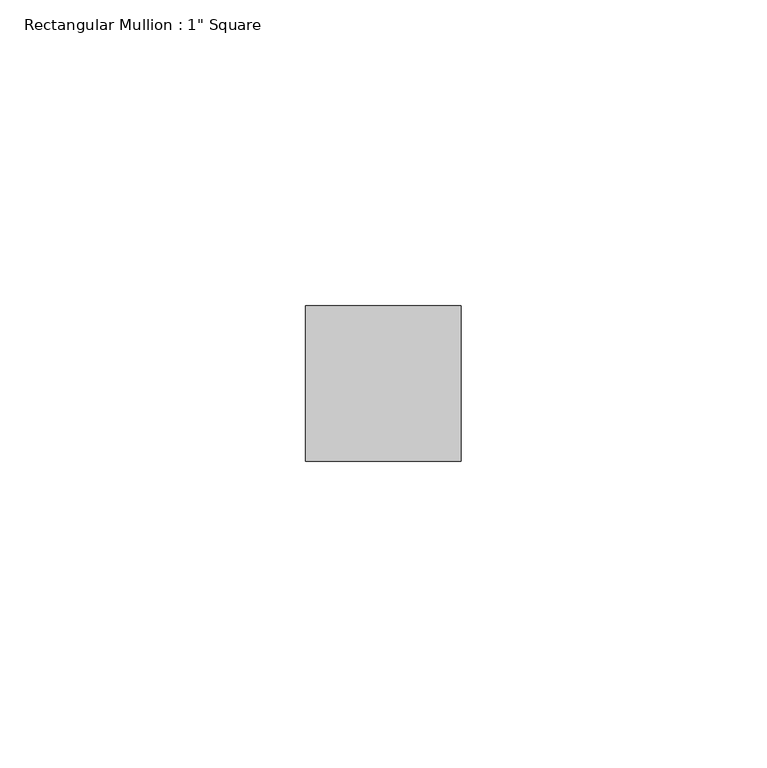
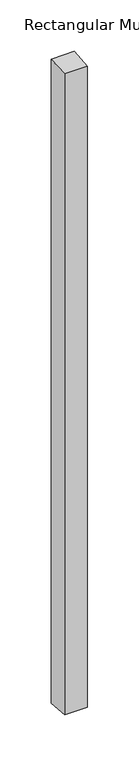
"""IFC4 building model written with IfcOpenShell, lengths in millimetres: member geometry."""

from ifc_helpers import new_model, si_unit, origin, place, context, project, spatial, faceted_brep, source, transform, mapped, element, save


def member_c7f1f8f4(model_context):
    return source(origin(), model_context, "Body", "Brep", [
        faceted_brep([(-25.4, 12.7, 0.833586), (0.0, 12.7, 1.0561795), (0.0, 12.7, -763.0561795), (-25.4, 12.7, -762.833586), (-25.4, -12.7, -1.278773), (-25.4, -12.7, -760.721227), (0.0, -12.7, -1.0561795), (0.0, -12.7, -760.9438205)], [[[0, 1, 2, 3]], [[4, 0, 3, 5]], [[6, 4, 5, 7]], [[1, 6, 7, 2]], [[1, 0, 4, 6]], [[2, 7, 5, 3]]]),
    ])


if __name__ == "__main__":
    model = new_model("IFC4")
    model_context = context("Model", 3, world=origin())
    ifc_project = project(units=[si_unit("LENGTHUNIT", "METRE", prefix="MILLI")], contexts=[model_context])
    site = spatial("IfcSite", under=ifc_project)
    building = spatial("IfcBuilding", under=site)
    placement = place(None, origin())
    member_shape = member_c7f1f8f4(model_context)
    element("IfcMember", 1, ObjectType="Rectangular Mullion : 1\" Square", at=placement, inside=building, context=model_context, shape_type="MappedRepresentation", body=[
        mapped(member_shape, transform((0.0, 0.0, 0.0), x_axis=(1.0, 0.0, 0.0), y_axis=(0.0, 1.0, 0.0), z_axis=(0.0, 0.0, 1.0))),
    ])
    save(model, "model.ifc")
